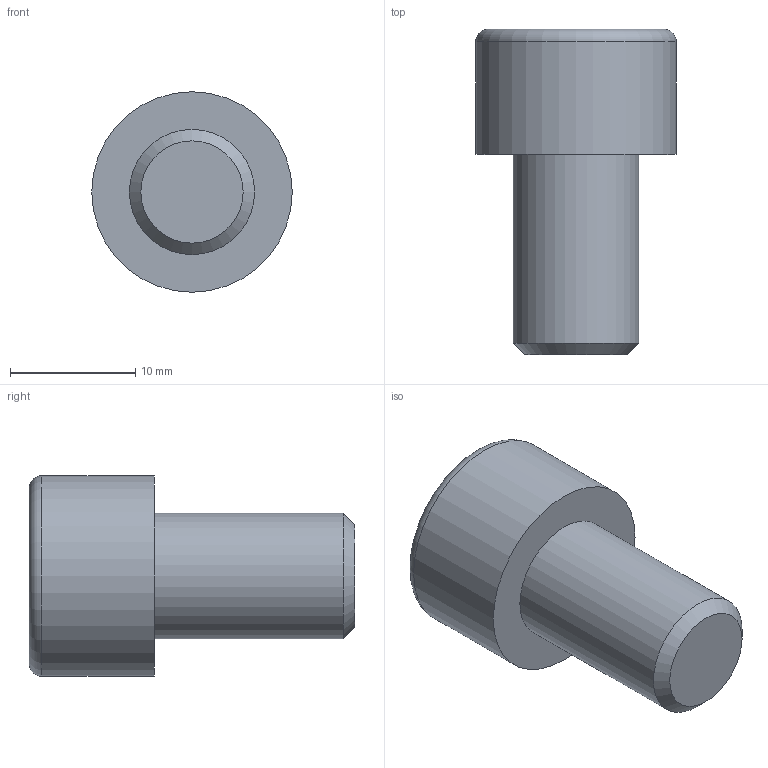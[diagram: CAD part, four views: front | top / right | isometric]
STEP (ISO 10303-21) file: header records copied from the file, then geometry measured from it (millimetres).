
FILE_DESCRIPTION(/* description */ (''),/* implementation_level */ '2;1');
FILE_NAME(/* name */ 'C:\Users\D\Documents\Inventor\各種小物\JIS\JIS B 1176 六角穴付きボルト\M10x16.stp',/* time_stamp */ '2022-05-09T18:52:20+09:00',/* author */ ('D'),/* organization */ (''),/* preprocessor_version */ 'ST-DEVELOPER v18',/* originating_system */ 'Autodesk Inventor 2020',/* authorisation */ '');
FILE_SCHEMA (('AUTOMOTIVE_DESIGN { 1 0 10303 214 3 1 1 }'));
Length unit declared in the file: millimetre
Products named in the file (1): M1.6x2.5
Bounding box: 16 x 26 x 16 mm (x, y, z)
Volume: 2909.2 mm3; surface area: 1521 mm2
Topology: 1 solids, 1 shells, 14 faces, 33 edges, 22 vertices
Faces by surface type: plane 9, cone 2, cylinder 2, torus 1
Full cylindrical faces by diameter (mm): 10 x1, 16 x1
Entity records: 435 total; most frequent: CARTESIAN_POINT 83, ORIENTED_EDGE 64, DIRECTION 64, EDGE_CURVE 32, AXIS2_PLACEMENT_3D 24, VERTEX_POINT 22, EDGE_LOOP 16, LINE 16
